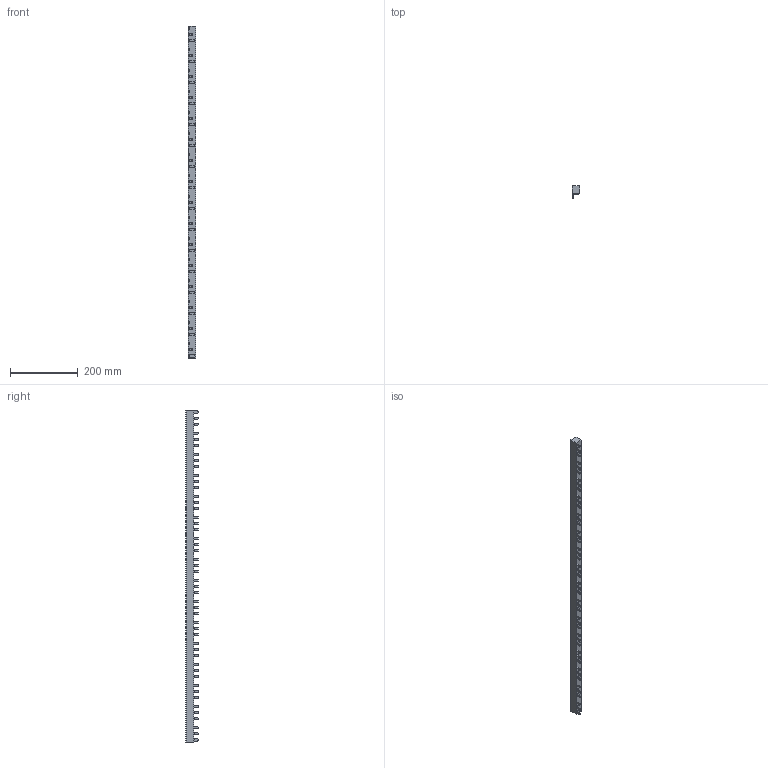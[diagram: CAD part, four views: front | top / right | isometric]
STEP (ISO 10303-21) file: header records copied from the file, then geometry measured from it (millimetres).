
FILE_DESCRIPTION((''),'2;1');
FILE_NAME('C:\Users\N.Sziegat\Desktop\PDF-Store\STP-793-495.stp','2014-04-16T11:41:12',(''),('FTG Goehringer GmbH'),'Autodesk Inventor 2012','Autodesk Inventor 2012','');
FILE_SCHEMA(('AUTOMOTIVE_DESIGN { 1 0 10303 214 1 1 1 1 }'));
Length unit declared in the file: millimetre
Products named in the file (1): 793-495
Bounding box: 21.2 x 36.5 x 982 mm (x, y, z)
Volume: 486367.2 mm3; surface area: 97042.3 mm2
Topology: 1 solids, 1 shells, 474 faces, 1272 edges, 848 vertices
Faces by surface type: plane 278, cylinder 196
Entity records: 15402 total; most frequent: DIRECTION 2614, CARTESIAN_POINT 2595, ORIENTED_EDGE 2544, EDGE_CURVE 1272, VECTOR 880, LINE 880, AXIS2_PLACEMENT_3D 867, VERTEX_POINT 848
